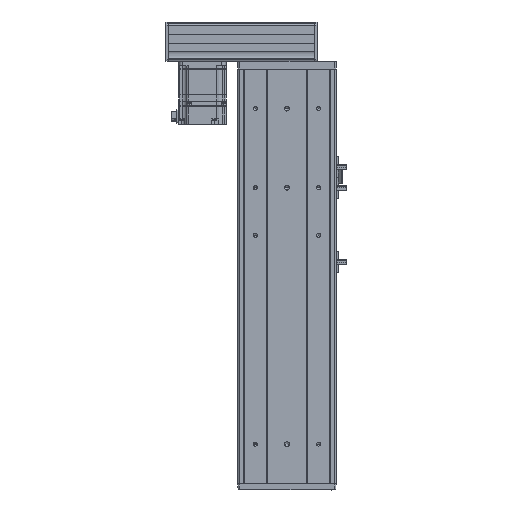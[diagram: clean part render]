
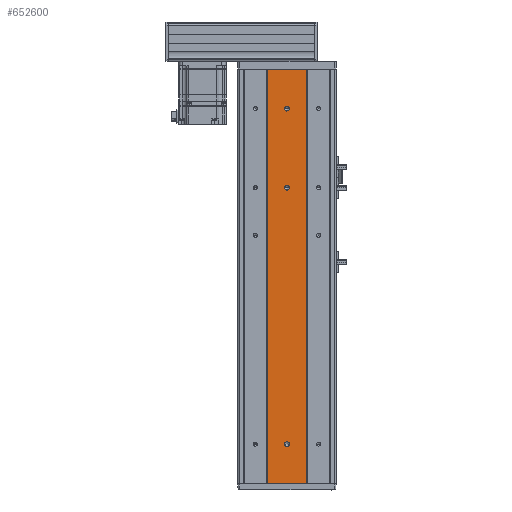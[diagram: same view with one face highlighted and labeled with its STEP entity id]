
A CAD part, front view. The second image highlights one B-rep face of the part: STEP entity #652600.
In plain terms, the highlighted planar face has unit normal (0, -1, 0).
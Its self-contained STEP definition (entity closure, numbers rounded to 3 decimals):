
#576170=CARTESIAN_POINT('',(0.,-42.,133.)
);
#576180=VERTEX_POINT('',#576170);
#576380=CARTESIAN_POINT('',(0.,-42.,127.));
#576390=VERTEX_POINT('',#576380);
#576420=CARTESIAN_POINT('',(0.,-42.,130.));
#576430=DIRECTION('',(-0.,-1.,-0.));
#576440=DIRECTION('',(0.,0.,-1.));
#576450=AXIS2_PLACEMENT_3D('',#576420,#576430,#576440);
#576460=CIRCLE('',#576450,3.);
#576470=EDGE_CURVE('',#576180,#576390,#576460,.T.);
#576900=CARTESIAN_POINT('',(0.,-42.,33.))
;
#576910=VERTEX_POINT('',#576900);
#576940=CARTESIAN_POINT('',(0.,-42.,30.));
#576950=DIRECTION('',(-0.,-1.,-0.));
#576960=DIRECTION('',(0.,0.,-1.));
#576970=AXIS2_PLACEMENT_3D('',#576940,#576950,#576960);
#576980=CIRCLE('',#576970,3.);
#576990=CARTESIAN_POINT('',(0.,-42.,27.));
#577000=VERTEX_POINT('',#576990);
#577010=EDGE_CURVE('',#577000,#576910,#576980,.T.);
#577630=CARTESIAN_POINT('',(0.,-42.,-291.
));
#577640=VERTEX_POINT('',#577630);
#577670=CARTESIAN_POINT('',(0.,-42.,-294.));
#577680=DIRECTION('',(-0.,-1.,-0.));
#577690=DIRECTION('',(0.,0.,-1.));
#577700=AXIS2_PLACEMENT_3D('',#577670,#577680,#577690);
#577710=CIRCLE('',#577700,3.);
#577720=CARTESIAN_POINT('',(0.,-42.,-297.));
#577730=VERTEX_POINT('',#577720);
#577740=EDGE_CURVE('',#577730,#577640,#577710,.T.);
#602570=CARTESIAN_POINT('',(-24.5,-42.,-344.));
#602580=VERTEX_POINT('',#602570);
#602610=CARTESIAN_POINT('',(0.,-42.,-344.));
#602620=DIRECTION('',(1.,0.,0.));
#602630=VECTOR('',#602620,1000.);
#602640=LINE('',#602610,#602630);
#602650=CARTESIAN_POINT('',(24.5,-42.,-344.));
#602660=VERTEX_POINT('',#602650);
#602670=EDGE_CURVE('',#602580,#602660,#602640,.T.);
#652080=CARTESIAN_POINT('',(-24.5,-42.,180.));
#652090=VERTEX_POINT('',#652080);
#652120=CARTESIAN_POINT('',(-24.5,-42.,180.));
#652130=DIRECTION('',(-0.,-0.,-1.));
#652140=VECTOR('',#652130,1000.);
#652150=LINE('',#652120,#652140);
#652160=EDGE_CURVE('',#652090,#602580,#652150,.T.);
#652220=CARTESIAN_POINT('',(0.,-42.,180.));
#652230=DIRECTION('',(0.,1.,0.));
#652240=DIRECTION('',(0.,-0.,1.));
#652250=AXIS2_PLACEMENT_3D('',#652220,#652230,#652240);
#652260=PLANE('',#652250);
#652270=ORIENTED_EDGE('',*,*,#577740,.F.);
#652280=EDGE_CURVE('',#577640,#577730,#577710,.T.);
#652290=ORIENTED_EDGE('',*,*,#652280,.F.);
#652300=EDGE_LOOP('',(#652290,#652270));
#652310=FACE_BOUND('',#652300,.T.);
#652320=EDGE_CURVE('',#576390,#576180,#576460,.T.);
#652330=ORIENTED_EDGE('',*,*,#652320,.F.);
#652340=ORIENTED_EDGE('',*,*,#576470,.F.);
#652350=EDGE_LOOP('',(#652340,#652330));
#652360=FACE_BOUND('',#652350,.T.);
#652370=EDGE_CURVE('',#576910,#577000,#576980,.T.);
#652380=ORIENTED_EDGE('',*,*,#652370,.F.);
#652390=ORIENTED_EDGE('',*,*,#577010,.F.);
#652400=EDGE_LOOP('',(#652390,#652380));
#652410=FACE_BOUND('',#652400,.T.);
#652420=ORIENTED_EDGE('',*,*,#652160,.T.);
#652430=CARTESIAN_POINT('',(0.,-42.,180.));
#652440=DIRECTION('',(1.,0.,0.));
#652450=VECTOR('',#652440,1000.);
#652460=LINE('',#652430,#652450);
#652470=CARTESIAN_POINT('',(24.5,-42.,180.));
#652480=VERTEX_POINT('',#652470);
#652490=EDGE_CURVE('',#652090,#652480,#652460,.T.);
#652500=ORIENTED_EDGE('',*,*,#652490,.F.);
#652510=CARTESIAN_POINT('',(24.5,-42.,180.));
#652520=DIRECTION('',(-0.,-0.,-1.));
#652530=VECTOR('',#652520,1000.);
#652540=LINE('',#652510,#652530);
#652550=EDGE_CURVE('',#652480,#602660,#652540,.T.);
#652560=ORIENTED_EDGE('',*,*,#652550,.F.);
#652570=ORIENTED_EDGE('',*,*,#602670,.T.);
#652580=EDGE_LOOP('',(#652570,#652560,#652500,#652420));
#652590=FACE_OUTER_BOUND('',#652580,.T.);
#652600=ADVANCED_FACE('',(#652310,#652360,#652410,#652590),#652260,.F.);
